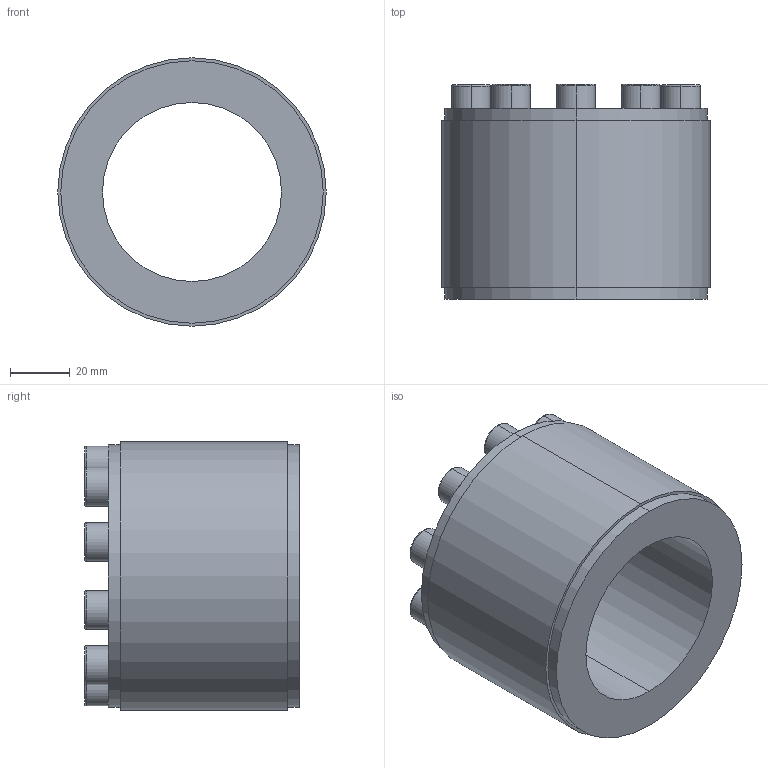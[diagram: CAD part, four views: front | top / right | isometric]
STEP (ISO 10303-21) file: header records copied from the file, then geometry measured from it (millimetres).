
FILE_DESCRIPTION (( 'STEP AP203' ), '1' );
FILE_NAME ('PL-D1 60-90.STEP', '2021-10-23T00:15:43', ( '' ), ( '' ), 'SwSTEP 2.0', 'SolidWorks 2018', '' );
FILE_SCHEMA (( 'CONFIG_CONTROL_DESIGN' ));
Length unit declared in the file: millimetre
Products named in the file (1): PL-D1 60-90
Bounding box: 90 x 72 x 90 mm (x, y, z)
Volume: 233307.8 mm3; surface area: 41187.5 mm2
Topology: 1 solids, 1 shells, 132 faces, 304 edges, 196 vertices
Faces by surface type: plane 84, cylinder 28, torus 20
Entity records: 3805 total; most frequent: DIRECTION 666, CARTESIAN_POINT 633, ORIENTED_EDGE 608, EDGE_CURVE 304, AXIS2_PLACEMENT_3D 229, VECTOR 208, LINE 208, VERTEX_POINT 196
